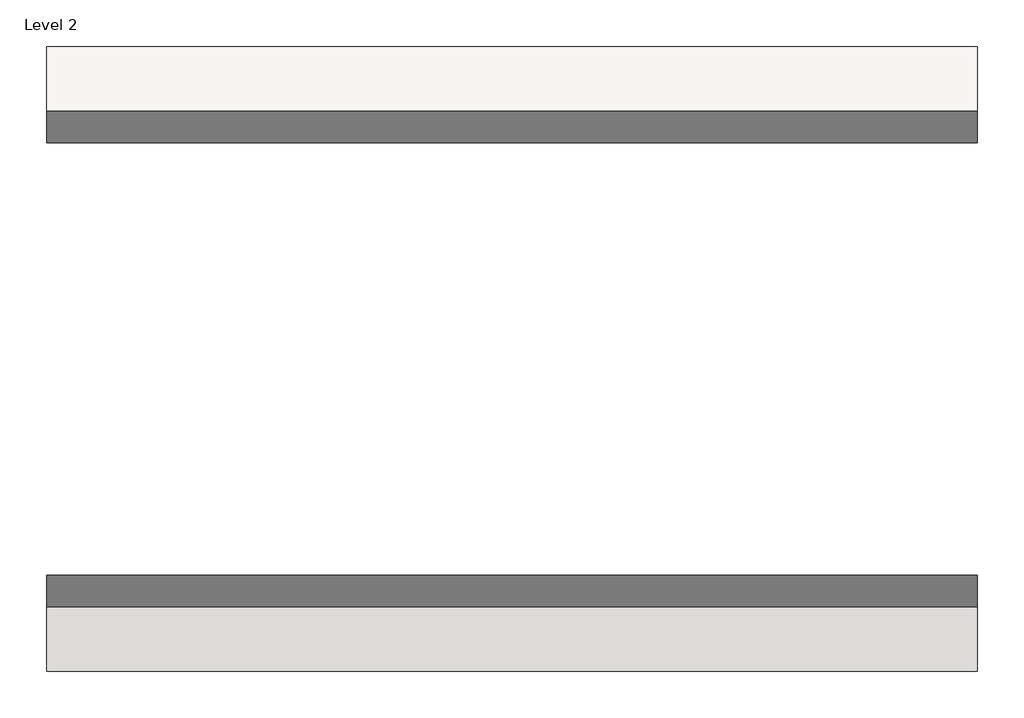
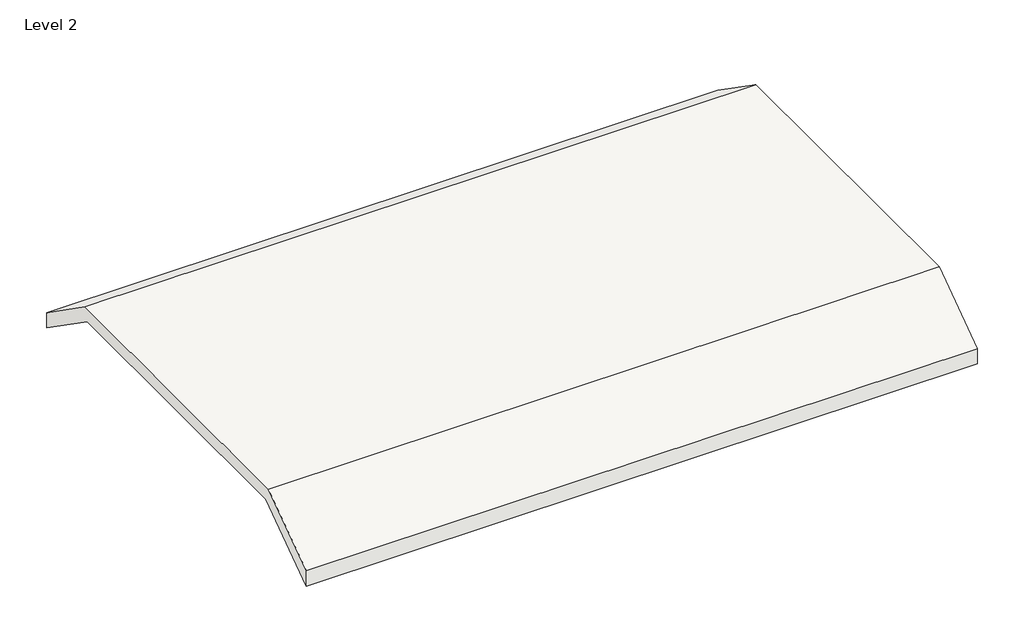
# One storey: 1 roof.
"""IFC4 building model written with IfcOpenShell, lengths in millimetres."""

import ifcopenshell
import ifcopenshell.guid

model = None  # the IFC model being written
_history = None  # IfcOwnerHistory: only IFC2X3 demands one
_inside = {}  # id of a spatial element -> (the spatial element, [elements in it])
_under = {}  # id of a project, library or spatial element -> (it, [spatial elements below it])
_declared = {}  # id of a project -> (the project, [libraries it declares])
_typed = {}  # id of a type object -> (the type object, [elements of that type])
_made_of = {}  # id of a material, layer set ... -> (it, [elements and type objects made of it])


def new_model(schema):
    """Start an empty IFC model of exactly this schema.

    Asked for "IFC4X3", IfcOpenShell would pick the latest addendum, in which some entities
    have other attributes; the version numbers below select the first issue.
    IFC2X3 requires an IfcOwnerHistory on every rooted entity: one is made here for all.
    """
    global model, _history
    if schema == "IFC4X3":
        model = ifcopenshell.file(schema_version=(4, 3, 0, 0))
    else:
        model = ifcopenshell.file(schema=schema)
    _inside.clear()
    _under.clear()
    _declared.clear()
    _typed.clear()
    _made_of.clear()
    _history = None
    if model.schema == "IFC2X3":
        org = make("IfcOrganization", Name="unknown")
        user = make(
            "IfcPersonAndOrganization",
            ThePerson=make("IfcPerson", FamilyName="unknown"),
            TheOrganization=org,
        )
        app = make(
            "IfcApplication",
            ApplicationDeveloper=org,
            Version="unknown",
            ApplicationFullName="unknown",
            ApplicationIdentifier="unknown",
        )
        _history = make(
            "IfcOwnerHistory",
            OwningUser=user,
            OwningApplication=app,
            ChangeAction="ADDED",
            CreationDate=0,
        )
    return model


def make(cls, **values):
    """One entity of the class cls with the attributes given. An attribute that is None is left unset."""
    return model.create_entity(
        cls, **{name: value for name, value in values.items() if value is not None}
    )


def rooted(cls, **values):
    """An entity with a GlobalId (a new one), such as an element, a storey or a relation."""
    return make(cls, GlobalId=ifcopenshell.guid.new(), OwnerHistory=_history, **values)


def si_unit(unit_type, name, prefix=None):
    """IfcSIUnit, for example si_unit("LENGTHUNIT", "METRE", prefix="MILLI")."""
    return make("IfcSIUnit", UnitType=unit_type, Prefix=prefix, Name=name)


def assignment(units):
    """IfcUnitAssignment: the units of a project."""
    return None if units is None else make("IfcUnitAssignment", Units=units)


def point(xyz):
    """IfcCartesianPoint."""
    return None if xyz is None else make("IfcCartesianPoint", Coordinates=xyz)


def direction(xyz):
    """IfcDirection."""
    return None if xyz is None else make("IfcDirection", DirectionRatios=xyz)


def frame(location, z_axis=None, x_axis=None):
    """IfcAxis2Placement3D, a coordinate frame: its origin and axes. An axis left out is left unset."""
    return make(
        "IfcAxis2Placement3D",
        Location=point(location),
        Axis=direction(z_axis),
        RefDirection=direction(x_axis),
    )


def origin():
    """The frame at (0, 0, 0) with its axes left unset."""
    return frame((0.0, 0.0, 0.0))


def place(relative_to, where):
    """IfcLocalPlacement: puts the frame where relative to a parent placement (None: the world)."""
    return make(
        "IfcLocalPlacement", PlacementRelTo=relative_to, RelativePlacement=where
    )


def context(
    kind, dimensions, precision=None, world=None, true_north=None, identifier=None
):
    """IfcGeometricRepresentationContext, for example the 3D "Model" context."""
    return make(
        "IfcGeometricRepresentationContext",
        ContextIdentifier=identifier,
        ContextType=kind,
        CoordinateSpaceDimension=dimensions,
        Precision=precision,
        WorldCoordinateSystem=world,
        TrueNorth=true_north,
    )


def project(units=None, contexts=None):
    """IfcProject with its units and contexts."""
    return rooted(
        "IfcProject",
        Name="project",
        RepresentationContexts=contexts,
        UnitsInContext=assignment(units),
    )


def spatial(cls, under=None, at=None, **own):
    """A site, building, storey or space (cls), placed at a placement, below another one or the project."""
    s = rooted(cls, ObjectPlacement=at, **own)
    if under is not None:
        _under.setdefault(under.id(), (under, []))[1].append(s)
    return s


def polyline(points):
    """IfcPolyline through the points."""
    return make("IfcPolyline", Points=[point(p) for p in points])


def outline(outer, holes=None, kind="AREA"):
    """IfcArbitraryClosedProfileDef: a profile drawn as a closed curve; with holes, ...WithVoids."""
    if holes is None:
        return make("IfcArbitraryClosedProfileDef", ProfileType=kind, OuterCurve=outer)
    return make(
        "IfcArbitraryProfileDefWithVoids",
        ProfileType=kind,
        OuterCurve=outer,
        InnerCurves=holes,
    )


def extrude(swept, where, along, depth):
    """IfcExtrudedAreaSolid: the profile swept, set in the frame where, extruded along a direction by depth."""
    return make(
        "IfcExtrudedAreaSolid",
        SweptArea=swept,
        Position=where,
        ExtrudedDirection=direction(along),
        Depth=depth,
    )


def shape(context_of_items, identifier, shape_type, items):
    """IfcShapeRepresentation: the items that make up one representation, for example the "Body"."""
    return make(
        "IfcShapeRepresentation",
        ContextOfItems=context_of_items,
        RepresentationIdentifier=identifier,
        RepresentationType=shape_type,
        Items=items,
    )


def made_of(thing, what):
    """Note that an element or type object is made of a material, layer set ...; save() writes the relation."""
    if what is not None:
        _made_of.setdefault(what.id(), (what, []))[1].append(thing)
    return thing


def element(
    cls,
    number,
    at=None,
    inside=None,
    cuts=None,
    type_object=None,
    material=None,
    context=None,
    identifier="Body",
    shape_type=None,
    held_by="IfcProductDefinitionShape",
    body=None,
    shapes=None,
    **own,
):
    """One element of the class cls, such as IfcWall. Its Tag is "e" and its number.

    at: its placement. inside: the storey or other place that contains it. cuts: it is an
    opening in that element (IfcRelVoidsElement). A single representation is given by context,
    identifier, shape_type and body (its items); several are given by shapes. held_by: the class
    of the entity that holds the representations. save() writes the other relations.
    """
    e = rooted(cls, Tag="e%d" % number, ObjectPlacement=at, **own)
    if body is not None:
        shapes = [shape(context, identifier, shape_type, body)]
    if shapes is not None:
        e.Representation = make(held_by, Representations=shapes)
    if inside is not None:
        _inside.setdefault(inside.id(), (inside, []))[1].append(e)
    if cuts is not None:
        rooted(
            "IfcRelVoidsElement", RelatingBuildingElement=cuts, RelatedOpeningElement=e
        )
    if type_object is not None:
        _typed.setdefault(type_object.id(), (type_object, []))[1].append(e)
    return made_of(e, material)


def aggregate(whole, parts):
    """IfcRelAggregates: a whole, such as a stair, and the parts it consists of."""
    return rooted("IfcRelAggregates", RelatingObject=whole, RelatedObjects=parts)


def save(model, path):
    """Write the relations noted so far, then the file.

    IfcRelAggregates (storeys below a building ...), IfcRelContainedInSpatialStructure (elements
    in a storey), IfcRelDefinesByType, IfcRelAssociatesMaterial and IfcRelDeclares: one each for
    every whole, place, type object, material and project.
    """
    for whole, parts in _under.values():
        aggregate(whole, parts)
    for where, things in _inside.values():
        rooted(
            "IfcRelContainedInSpatialStructure",
            RelatedElements=things,
            RelatingStructure=where,
        )
    for kind, things in _typed.values():
        rooted("IfcRelDefinesByType", RelatedObjects=things, RelatingType=kind)
    for what, things in _made_of.values():
        rooted("IfcRelAssociatesMaterial", RelatedObjects=things, RelatingMaterial=what)
    for by, libraries in _declared.values():
        rooted("IfcRelDeclares", RelatingContext=by, RelatedDefinitions=libraries)
    model.write(path)


model = new_model("IFC4")

# Units and contexts
model_context = context("Model", 3, world=origin())
ifc_project = project(units=[si_unit("LENGTHUNIT", "METRE", prefix="MILLI")], contexts=[model_context])

# Site, building, storey
site = spatial("IfcSite", under=ifc_project)
building = spatial("IfcBuilding", under=site)
storey = spatial("IfcBuildingStorey", under=building, Name="Level 2", Elevation=3048.0)

# Roof
placement = place(None, origin())
element("IfcRoof", 1, ObjectType="Generic - 12\"", at=placement, inside=storey, context=model_context, shape_type="SweptSolid", body=[
    extrude(outline(polyline([(7638.6122484, 3505.2), (7638.6122484, 3133.1441848), (6018.5325125, 4267.2), (-1104.5080156, 4267.2), (-2724.5877516, 3133.1441848), (-2724.5877516, 3505.2), (-1200.5877516, 4572.0), (6114.6122484, 4572.0), (7638.6122484, 3505.2)])), frame((-7596.1466991, 0.0, 0.0), z_axis=(1.0, 0.0, 0.0), x_axis=(0.0, 1.0, 0.0)), (0.0, 0.0, 1.0), 15443.2),
])

save(model, "model.ifc")
